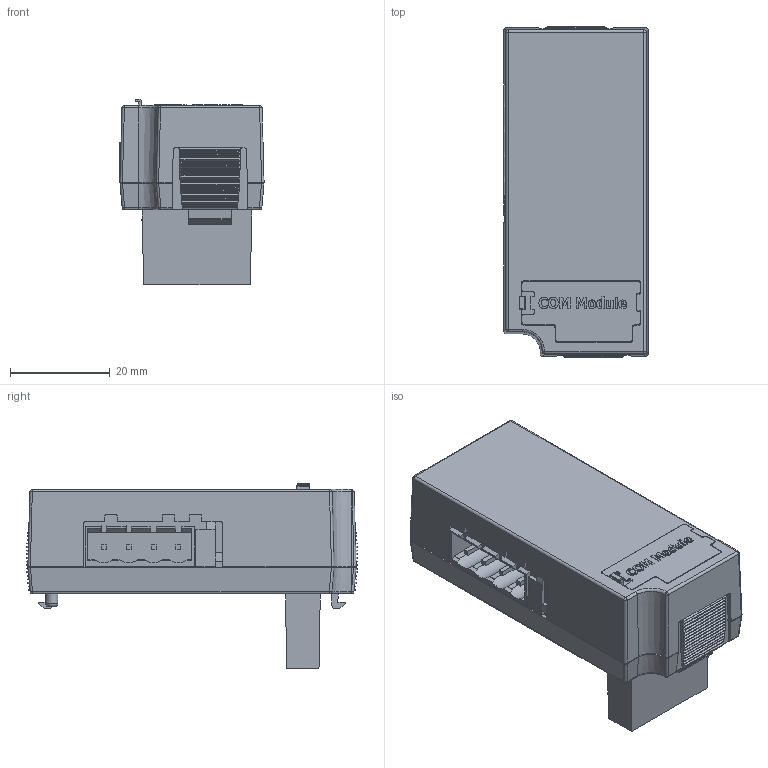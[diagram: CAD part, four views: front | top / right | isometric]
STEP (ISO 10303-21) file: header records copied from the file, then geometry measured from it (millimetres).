
FILE_DESCRIPTION (( 'STEP AP203' ), '1' );
FILE_NAME ('UAC-CX-01RS4.STEP', '2018-01-23T11:58:37', ( 'dell' ), ( '' ), 'SwSTEP 2.0', 'SolidWorks 2015', '' );
FILE_SCHEMA (( 'CONFIG_CONTROL_DESIGN' ));
Length unit declared in the file: millimetre
Products named in the file (1): UAC-CX-01RS4
Bounding box: 28.96 x 66.55 x 37.21 mm (x, y, z)
Volume: 39155.6 mm3; surface area: 10251.3 mm2
Topology: 1 solids, 6 shells, 1035 faces, 2639 edges, 1675 vertices
Faces by surface type: plane 785, bspline 125, cylinder 92, cone 14, sphere 13, torus 6
Entity records: 35095 total; most frequent: CARTESIAN_POINT 11357, ORIENTED_EDGE 5278, DIRECTION 4199, EDGE_CURVE 2639, LINE 2039, VECTOR 2039, VERTEX_POINT 1675, EDGE_LOOP 1094
